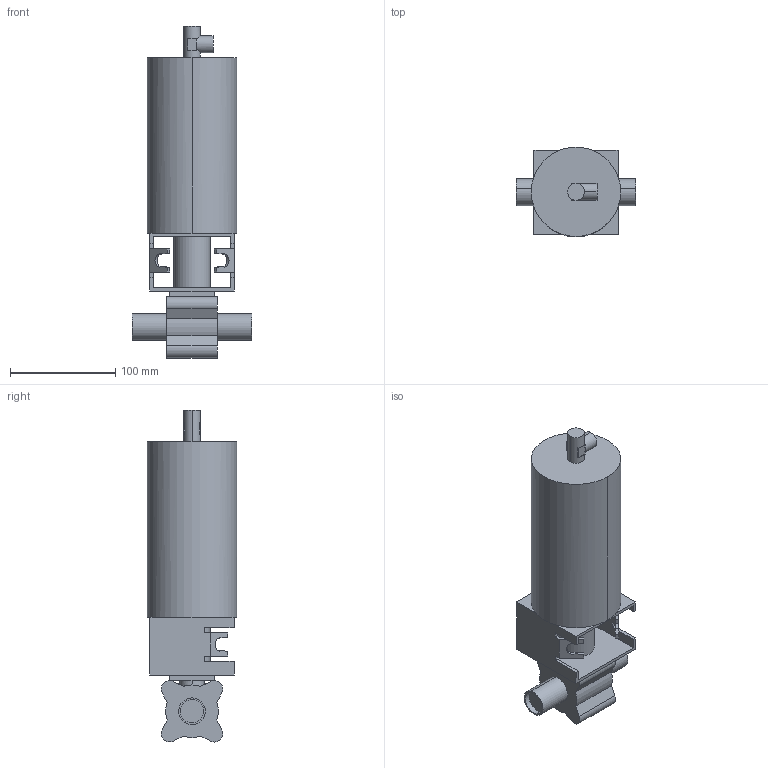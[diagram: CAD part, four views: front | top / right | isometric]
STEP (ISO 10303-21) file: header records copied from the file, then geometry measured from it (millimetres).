
FILE_DESCRIPTION(('Creo Elements/Direct Modeling STEP Export'),'2;1');
FILE_NAME('BLV1-1T-NC-12S.stp','2019-05-10T 8:10:35',(''),(''),'Creo Elements/Direct Modeling STEP processor for AP214 (Solid Model)','Creo Elements/Direct Modeling 19.0F 14-Feb-2017 (C) Parametric Technology GmbH','');
FILE_SCHEMA(('AUTOMOTIVE_DESIGN { 1 0 10303 214 1 1 1 1 }'));
Length unit declared in the file: millimetre
Products named in the file (2): BLV1-1T-NC-12S
Assembly tree (1 placements, depth 2):
  BLV1-1T-NC-12S
    BLV1-1T-NC-12S
Bounding box: 114 x 85 x 315.71 mm (x, y, z)
Volume: 1237392.2 mm3; surface area: 115449.8 mm2
Topology: 1 solids, 1 shells, 109 faces, 287 edges, 186 vertices
Faces by surface type: plane 80, cylinder 29
Entity records: 3117 total; most frequent: ORIENTED_EDGE 574, CARTESIAN_POINT 563, DIRECTION 463, EDGE_CURVE 287, VECTOR 187, LINE 187, VERTEX_POINT 186, AXIS2_PLACEMENT_3D 138
